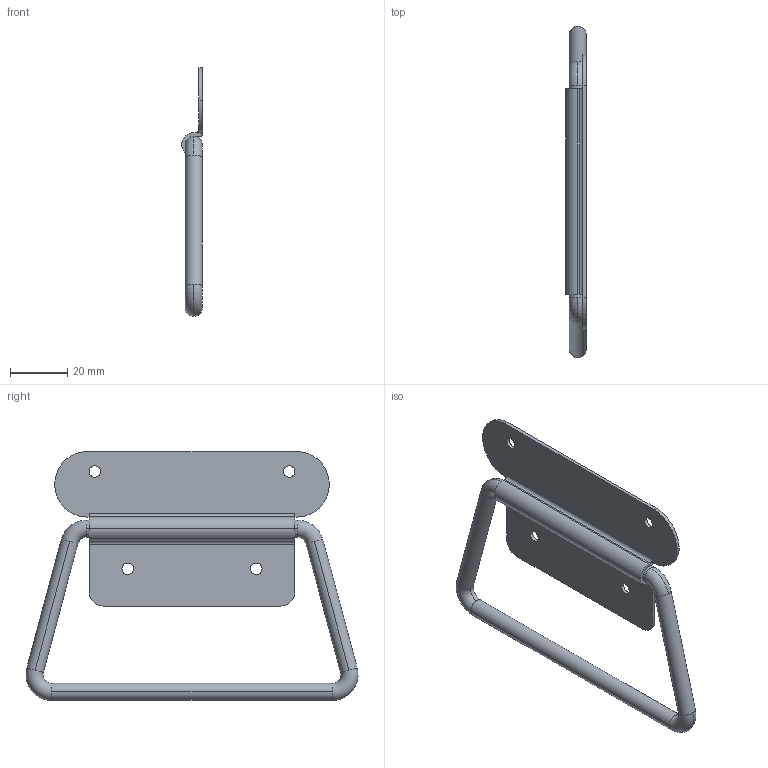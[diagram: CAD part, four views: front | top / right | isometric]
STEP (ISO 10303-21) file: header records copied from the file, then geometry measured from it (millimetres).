
FILE_DESCRIPTION((''),'2;1');
FILE_NAME('6457.03.04.stp','2023-10-09T15:15:02',(''),(''),'Mechanical Desktop 2006','Mechanical Desktop 2006',', , ');
FILE_SCHEMA(('CONFIG_CONTROL_DESIGN'));
Length unit declared in the file: millimetre
Products named in the file (1): 6457.03.00
Bounding box: 7.2 x 116.07 x 87 mm (x, y, z)
Volume: 14207.9 mm3; surface area: 15700 mm2
Topology: 2 solids, 2 shells, 54 faces, 150 edges, 100 vertices
Faces by surface type: cylinder 32, plane 14, torus 8
Entity records: 1891 total; most frequent: DIRECTION 348, CARTESIAN_POINT 305, ORIENTED_EDGE 300, EDGE_CURVE 150, AXIS2_PLACEMENT_3D 143, VERTEX_POINT 100, CIRCLE 88, EDGE_LOOP 62
